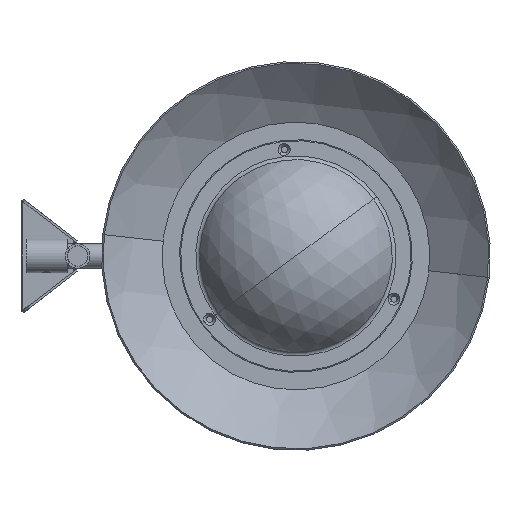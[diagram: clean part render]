
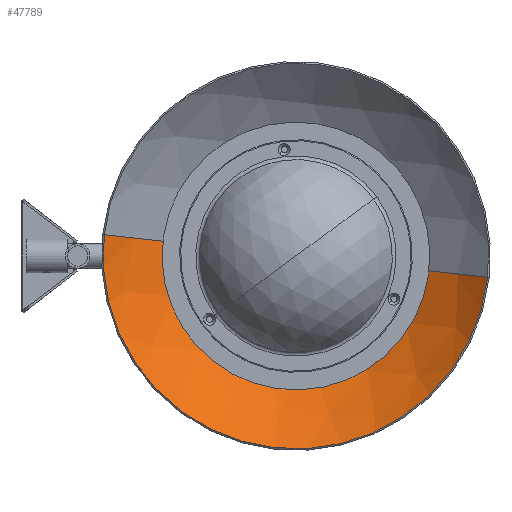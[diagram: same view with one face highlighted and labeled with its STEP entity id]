
A CAD part, front view. The second image highlights one B-rep face of the part: STEP entity #47789.
In plain terms, the highlighted spherical face has radius 125.217 mm.
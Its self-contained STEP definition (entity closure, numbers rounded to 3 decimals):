
#561 = AXIS2_PLACEMENT_3D ( 'NONE', #55010, #65323, #73484 ) ;
#3039 = VERTEX_POINT ( 'NONE', #48353 ) ;
#3049 = DIRECTION ( 'NONE',  ( 0., 1., 0. ) ) ;
#4341 = FACE_OUTER_BOUND ( 'NONE', #48880, .T. ) ;
#5486 = EDGE_CURVE ( 'NONE', #13964, #36118, #97379, .T. ) ;
#8767 = VERTEX_POINT ( 'NONE', #48128 ) ;
#9603 = CARTESIAN_POINT ( 'NONE',  ( 106., -31.001, 0. ) ) ;
#12081 = DIRECTION ( 'NONE',  ( 0., -1., 0. ) ) ;
#12872 = CIRCLE ( 'NONE', #30197, 125.217 ) ;
#13688 = CARTESIAN_POINT ( 'NONE',  ( 106., -73.017, 0. ) ) ;
#13964 = VERTEX_POINT ( 'NONE', #64508 ) ;
#14111 = DIRECTION ( 'NONE',  ( 0.111, 0., 0.994 ) ) ;
#14662 = DIRECTION ( 'NONE',  ( 0.994, 0., -0.111 ) ) ;
#15484 = DIRECTION ( 'NONE',  ( -0.111, 0., -0.994 ) ) ;
#18191 = VERTEX_POINT ( 'NONE', #79851 ) ;
#18316 = ORIENTED_EDGE ( 'NONE', *, *, #58404, .F. ) ;
#19084 = DIRECTION ( 'NONE',  ( 0.111, 0., 0.994 ) ) ;
#21208 = CIRCLE ( 'NONE', #81989, 93.667 ) ;
#21547 = EDGE_CURVE ( 'NONE', #3039, #40518, #102863, .T. ) ;
#27281 = ORIENTED_EDGE ( 'NONE', *, *, #21547, .T. ) ;
#30197 = AXIS2_PLACEMENT_3D ( 'NONE', #93553, #53315, #43535 ) ;
#33802 = CARTESIAN_POINT ( 'NONE',  ( 105.447, -31.001, -4.969 ) ) ;
#34718 = ORIENTED_EDGE ( 'NONE', *, *, #5486, .T. ) ;
#36118 = VERTEX_POINT ( 'NONE', #91853 ) ;
#40518 = VERTEX_POINT ( 'NONE', #33802 ) ;
#41241 = ORIENTED_EDGE ( 'NONE', *, *, #53589, .T. ) ;
#42228 = AXIS2_PLACEMENT_3D ( 'NONE', #9603, #3049, #67261 ) ;
#43535 = DIRECTION ( 'NONE',  ( -0.994, 0., 0.111 ) ) ;
#45256 = DIRECTION ( 'NONE',  ( -0.111, 0., -0.994 ) ) ;
#47492 = CIRCLE ( 'NONE', #561, 93.667 ) ;
#47789 = ADVANCED_FACE ( 'NONE', ( #4341 ), #71213, .F. ) ;
#48128 = CARTESIAN_POINT ( 'NONE',  ( 199.093, -73.017, -10.353 ) ) ;
#48353 = CARTESIAN_POINT ( 'NONE',  ( 110.969, -31.001, -0.553 ) ) ;
#48880 = EDGE_LOOP ( 'NONE', ( #27281, #41241, #34718, #54474, #101739, #18316 ) ) ;
#50460 = AXIS2_PLACEMENT_3D ( 'NONE', #94127, #19084, #77819 ) ;
#52473 = AXIS2_PLACEMENT_3D ( 'NONE', #54681, #63923, #15484 ) ;
#53315 = DIRECTION ( 'NONE',  ( -0.111, 0., -0.994 ) ) ;
#53589 = EDGE_CURVE ( 'NONE', #40518, #13964, #97847, .T. ) ;
#54474 = ORIENTED_EDGE ( 'NONE', *, *, #62278, .T. ) ;
#54681 = CARTESIAN_POINT ( 'NONE',  ( 106., -31.001, 0. ) ) ;
#55010 = CARTESIAN_POINT ( 'NONE',  ( 106., -73.017, 0. ) ) ;
#58404 = EDGE_CURVE ( 'NONE', #3039, #8767, #12872, .T. ) ;
#62278 = EDGE_CURVE ( 'NONE', #36118, #18191, #47492, .T. ) ;
#63923 = DIRECTION ( 'NONE',  ( 0., 1., 0. ) ) ;
#64508 = CARTESIAN_POINT ( 'NONE',  ( 101.031, -31.001, 0.553 ) ) ;
#65323 = DIRECTION ( 'NONE',  ( 0., -1., 0. ) ) ;
#67261 = DIRECTION ( 'NONE',  ( -0.111, 0., -0.994 ) ) ;
#71213 = SPHERICAL_SURFACE ( 'NONE', #92051, 125.217 ) ;
#73484 = DIRECTION ( 'NONE',  ( -0.111, 0., -0.994 ) ) ;
#77819 = DIRECTION ( 'NONE',  ( 0.994, 0., -0.111 ) ) ;
#79851 = CARTESIAN_POINT ( 'NONE',  ( 95.647, -73.017, -93.093 ) ) ;
#81008 = CARTESIAN_POINT ( 'NONE',  ( 106., -156.118, 0. ) ) ;
#81989 = AXIS2_PLACEMENT_3D ( 'NONE', #13688, #12081, #45256 ) ;
#91853 = CARTESIAN_POINT ( 'NONE',  ( 12.907, -73.017, 10.353 ) ) ;
#92051 = AXIS2_PLACEMENT_3D ( 'NONE', #81008, #14111, #14662 ) ;
#93553 = CARTESIAN_POINT ( 'NONE',  ( 106., -156.118, 0. ) ) ;
#94127 = CARTESIAN_POINT ( 'NONE',  ( 106., -156.118, 0. ) ) ;
#97379 = CIRCLE ( 'NONE', #50460, 125.217 ) ;
#97847 = CIRCLE ( 'NONE', #42228, 5. ) ;
#101087 = EDGE_CURVE ( 'NONE', #18191, #8767, #21208, .T. ) ;
#101739 = ORIENTED_EDGE ( 'NONE', *, *, #101087, .T. ) ;
#102863 = CIRCLE ( 'NONE', #52473, 5. ) ;
